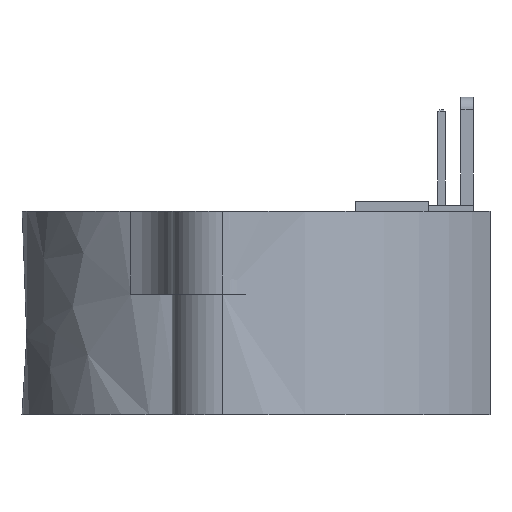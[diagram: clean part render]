
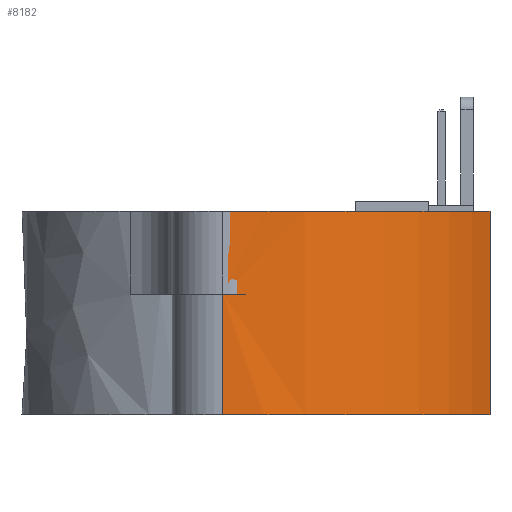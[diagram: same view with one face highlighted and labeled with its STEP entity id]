
A CAD part, left-side view. The second image highlights one B-rep face of the part: STEP entity #8182.
In plain terms, the highlighted free-form (B-spline) face has degree [2, 1] with [3, 2] control points.
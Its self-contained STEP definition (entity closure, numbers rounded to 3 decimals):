
#8032=CARTESIAN_POINT('',(55.298,111.308,16.));
#8033=VERTEX_POINT('',#8032);
#8042=CARTESIAN_POINT('',(68.917,90.308,16.));
#8043=VERTEX_POINT('',#8042);
#8044=CARTESIAN_POINT('',(55.298,111.308,16.));
#8045=CARTESIAN_POINT('',(55.298,96.391,16.));
#8046=CARTESIAN_POINT('',(68.917,90.308,16.));
#8047=(BOUNDED_CURVE()B_SPLINE_CURVE(2,(#8044,#8045,#8046),.CIRCULAR_ARC.,.F.,.U.)B_SPLINE_CURVE_WITH_KNOTS((3,3),(0.,1.),.UNSPECIFIED.)CURVE()GEOMETRIC_REPRESENTATION_ITEM()RATIONAL_B_SPLINE_CURVE((1.,0.839,1.))REPRESENTATION_ITEM(''));
#8048=EDGE_CURVE('',#8033,#8043,#8047,.T.);
#8145=CARTESIAN_POINT('',(55.298,111.308,0.));
#8146=CARTESIAN_POINT('',(55.298,111.308,16.));
#8147=CARTESIAN_POINT('',(55.298,96.391,0.));
#8148=CARTESIAN_POINT('',(55.298,96.391,16.));
#8149=CARTESIAN_POINT('',(68.917,90.308,0.));
#8150=CARTESIAN_POINT('',(68.917,90.308,16.));
#8151=(BOUNDED_SURFACE()B_SPLINE_SURFACE(2,1,((#8145,#8146),(#8147,#8148),(#8149,#8150)),.CYLINDRICAL_SURF.,.F.,.F.,.U.)B_SPLINE_SURFACE_WITH_KNOTS((3,3),(2,2),(0.,1.),(0.,1.),.UNSPECIFIED.)GEOMETRIC_REPRESENTATION_ITEM()RATIONAL_B_SPLINE_SURFACE(((1.,1.),(0.839,0.839),(1.,1.)))REPRESENTATION_ITEM('')SURFACE());
#8152=CARTESIAN_POINT('',(55.298,111.308,0.));
#8153=VERTEX_POINT('',#8152);
#8154=CARTESIAN_POINT('',(68.917,90.308,0.));
#8155=VERTEX_POINT('',#8154);
#8156=CARTESIAN_POINT('',(55.298,111.308,0.));
#8157=CARTESIAN_POINT('',(55.298,96.391,0.));
#8158=CARTESIAN_POINT('',(68.917,90.308,0.));
#8159=(BOUNDED_CURVE()B_SPLINE_CURVE(2,(#8156,#8157,#8158),.CIRCULAR_ARC.,.F.,.U.)B_SPLINE_CURVE_WITH_KNOTS((3,3),(0.,1.),.UNSPECIFIED.)CURVE()GEOMETRIC_REPRESENTATION_ITEM()RATIONAL_B_SPLINE_CURVE((1.,0.839,1.))REPRESENTATION_ITEM(''));
#8160=EDGE_CURVE('',#8153,#8155,#8159,.T.);
#8161=ORIENTED_EDGE('',*,*,#8160,.T.);
#8162=CARTESIAN_POINT('',(68.917,90.308,0.));
#8163=CARTESIAN_POINT('',(68.917,90.308,16.));
#8164=B_SPLINE_CURVE_WITH_KNOTS('',1,(#8162,#8163),.POLYLINE_FORM.,.F.,.U.,(2,2),(0.,1.),.UNSPECIFIED.);
#8165=EDGE_CURVE('',#8155,#8043,#8164,.T.);
#8166=ORIENTED_EDGE('',*,*,#8165,.T.);
#8167=ORIENTED_EDGE('',*,*,#8048,.F.);
#8168=CARTESIAN_POINT('',(55.298,111.308,9.5));
#8169=VERTEX_POINT('',#8168);
#8170=CARTESIAN_POINT('',(55.298,111.308,9.5));
#8171=CARTESIAN_POINT('',(55.298,111.308,16.));
#8172=B_SPLINE_CURVE_WITH_KNOTS('',1,(#8170,#8171),.POLYLINE_FORM.,.F.,.U.,(2,2),(0.594,1.),.UNSPECIFIED.);
#8173=EDGE_CURVE('',#8169,#8033,#8172,.T.);
#8174=ORIENTED_EDGE('',*,*,#8173,.F.);
#8175=CARTESIAN_POINT('',(55.298,111.308,0.));
#8176=CARTESIAN_POINT('',(55.298,111.308,9.5));
#8177=B_SPLINE_CURVE_WITH_KNOTS('',1,(#8175,#8176),.POLYLINE_FORM.,.F.,.U.,(2,2),(0.,0.594),.UNSPECIFIED.);
#8178=EDGE_CURVE('',#8153,#8169,#8177,.T.);
#8179=ORIENTED_EDGE('',*,*,#8178,.F.);
#8180=EDGE_LOOP('',(#8161,#8166,#8167,#8174,#8179));
#8181=FACE_OUTER_BOUND('',#8180,.T.);
#8182=ADVANCED_FACE('',(#8181),#8151,.T.);
